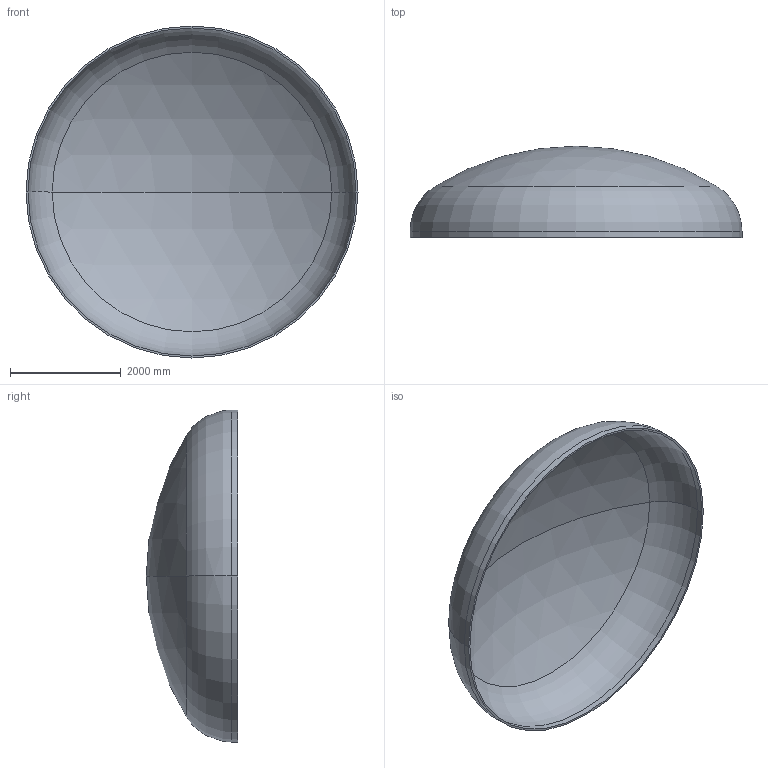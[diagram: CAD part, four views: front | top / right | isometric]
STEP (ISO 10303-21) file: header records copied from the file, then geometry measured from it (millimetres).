
FILE_DESCRIPTION (( 'STEP AP203' ), '1' );
FILE_NAME ('DIN 28013 Korbbogenform_-_Boden DIN 28013 - 6000 x 110 - I - s=35.step', '2016-07-04T10:36:41', ( '' ), ( '' ), 'SwSTEP 2.0', 'SolidWorks 2013', '' );
FILE_SCHEMA (( 'CONFIG_CONTROL_DESIGN' ));
Length unit declared in the file: millimetre
Products named in the file (1): DIN 28013 Korbbogenform_-_Boden DIN 28013 - 6000 x 110 - I - s=35
Bounding box: 6000 x 1650.46 x 6000 mm (x, y, z)
Volume: 1432522341.4 mm3; surface area: 82516839.2 mm2
Topology: 1 solids, 1 shells, 13 faces, 24 edges, 14 vertices
Faces by surface type: torus 4, cylinder 4, sphere 4, plane 1
Entity records: 407 total; most frequent: DIRECTION 72, CARTESIAN_POINT 52, ORIENTED_EDGE 48, AXIS2_PLACEMENT_3D 34, EDGE_CURVE 24, CIRCLE 20, EDGE_LOOP 14, VERTEX_POINT 14
